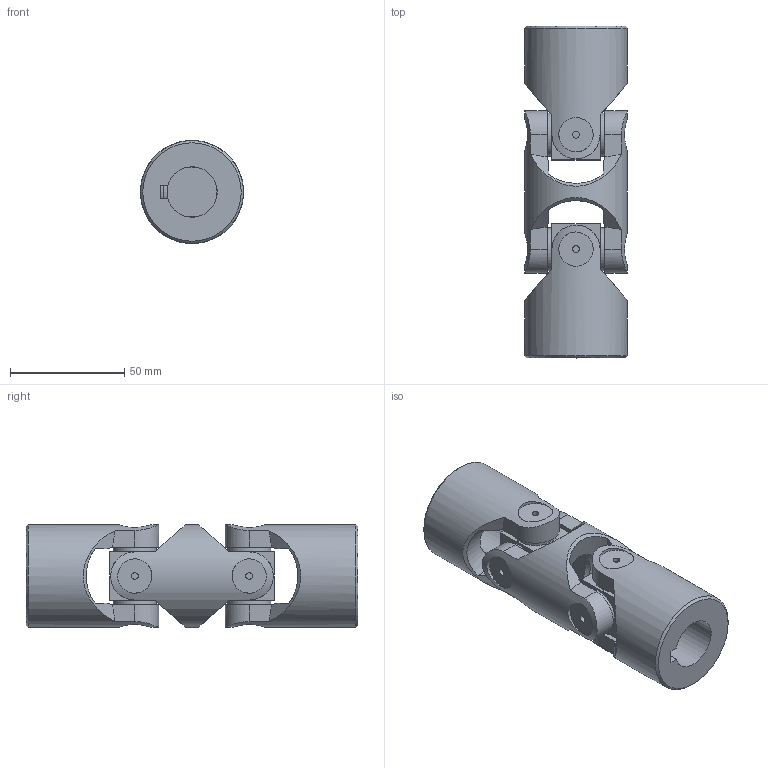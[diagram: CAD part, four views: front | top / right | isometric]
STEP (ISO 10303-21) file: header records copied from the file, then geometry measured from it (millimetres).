
FILE_DESCRIPTION(/* description */ (''),/* implementation_level */ '2;1');
FILE_NAME(/* name */ '\\SRV2016\Societa\Stefano\Disegni 3D\00Catalogo 3D\02Doppi GD-GBD\SG0D221C.stp',/* time_stamp */ '2021-11-23T15:11:35+01:00',/* author */ ('acquisti'),/* organization */ (''),/* preprocessor_version */ 'ST-DEVELOPER v15.6',/* originating_system */ 'Autodesk Inventor 2015',/* authorisation */ '');
FILE_SCHEMA (('AUTOMOTIVE_DESIGN { 1 0 10303 214 3 1 1 }'));
Length unit declared in the file: millimetre
Products named in the file (5): 4G MOD; 4GA SFE; 4G MOC; 4G MOS; Ø45_4GD-00_SG0D2200
Assembly tree (5 placements, depth 2):
  Ø45_4GD-00_SG0D2200
    4G MOD
    4GA SFE  x2
    4G MOC
    4G MOS
Bounding box: 45 x 145 x 45 mm (x, y, z)
Volume: 147338.9 mm3; surface area: 40893.9 mm2
Topology: 5 solids, 5 shells, 140 faces, 340 edges, 230 vertices
Faces by surface type: plane 73, cylinder 41, cone 22, torus 4
Full cylindrical faces by diameter (mm): 3 x8, 15 x8, 19 x8, 22 x1, 23 x3, 45 x3
Entity records: 4407 total; most frequent: CARTESIAN_POINT 1581, ORIENTED_EDGE 552, DIRECTION 531, EDGE_CURVE 276, AXIS2_PLACEMENT_3D 231, VERTEX_POINT 210, EDGE_LOOP 184, FACE_OUTER_BOUND 126
